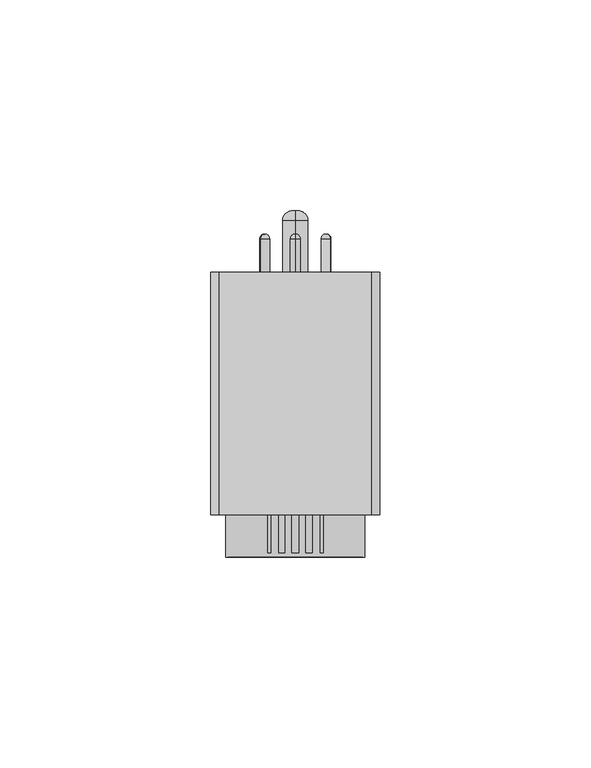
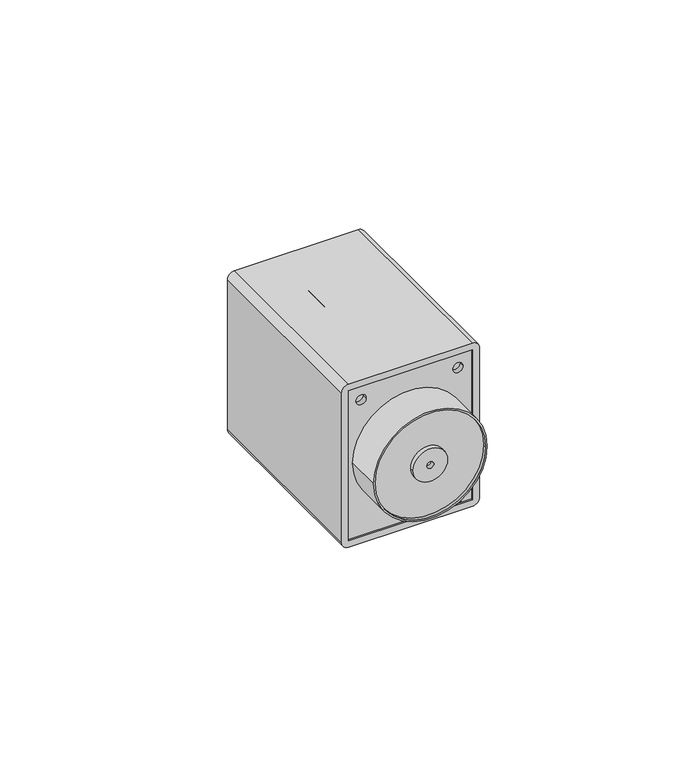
"""IFC4 building model written with IfcOpenShell, lengths in millimetres: proxy geometry, TDM_РЕЛЕ ВРЕМЕНИ ЦОКОЛЬНЫЙ СЕРИИ РВ1-РВ2-РВ3 : РВ1А-2 реж-1сек/10 мин -5 А-220 В-8Ц."""

from ifc_helpers import new_model, si_unit, point, frame, frame_2d, origin, origin_2d, place, context, project, spatial, polyline, circle_curve, ellipse_curve, trimmed, segment, composite_curve, outline, extrude, source, transform, mapped, element, save
from ifc_brep_helpers import plane_surface, cylinder_surface, revolved_surface, advanced_brep


def electrical_equipment_58bb5a1a(model_context):
    return source(origin(), model_context, "Body", "SolidModel", [
        extrude(outline(composite_curve([segment(trimmed(circle_curve(origin_2d(), 5.0), [point((0.0, 5.0))], [point((0.0, -5.0))], False, "CARTESIAN"), True, "CONTINUOUS"), segment(trimmed(circle_curve(origin_2d(), 5.0), [point((0.0, -5.0))], [point((0.0, 5.0))], False, "CARTESIAN"), True, "CONTINUOUS")], self_intersect=False), holes=[composite_curve([segment(trimmed(circle_curve(origin_2d(), 1.0), [point((0.0, 1.0))], [point((0.0, -1.0))], True, "CARTESIAN"), True, "CONTINUOUS"), segment(trimmed(circle_curve(origin_2d(), 1.0), [point((0.0, -1.0))], [point((0.0, 1.0))], True, "CARTESIAN"), True, "CONTINUOUS")], self_intersect=False)]), frame((0.0, -38.5, 0.0), z_axis=(0.0, 1.0, 0.0), x_axis=(0.0, 0.0, 1.0)), (0.0, 0.0, 1.0), 10.0),
        extrude(outline(composite_curve([segment(trimmed(circle_curve(origin_2d(), 16.0), [point((0.0, -16.0))], [point((0.0, 16.0))], False, "CARTESIAN"), True, "CONTINUOUS"), segment(trimmed(circle_curve(origin_2d(), 16.0), [point((0.0, 16.0))], [point((0.0, -16.0))], False, "CARTESIAN"), True, "CONTINUOUS")], self_intersect=False), holes=[composite_curve([segment(trimmed(circle_curve(origin_2d(), 5.0), [point((0.0, -5.0))], [point((0.0, 5.0))], True, "CARTESIAN"), True, "CONTINUOUS"), segment(trimmed(circle_curve(origin_2d(), 5.0), [point((0.0, 5.0))], [point((0.0, -5.0))], True, "CARTESIAN"), True, "CONTINUOUS")], self_intersect=False)]), frame((0.0, -37.5, 0.0), z_axis=(0.0, 1.0, 0.0), x_axis=(0.0, 0.0, 1.0)), (0.0, 0.0, 1.0), 9.5),
        extrude(outline(composite_curve([segment(trimmed(circle_curve(origin_2d(), 1.0), [point((0.0, -1.0))], [point((0.0, 1.0))], False, "CARTESIAN"), True, "CONTINUOUS"), segment(trimmed(circle_curve(origin_2d(), 1.0), [point((0.0, 1.0))], [point((0.0, -1.0))], False, "CARTESIAN"), True, "CONTINUOUS")], self_intersect=False)), frame((0.0, -37.5, 0.0), z_axis=(0.0, 1.0, 0.0), x_axis=(0.0, 0.0, 1.0)), (0.0, 0.0, 1.0), 9.5),
        advanced_brep(
        [(6.2627831, 36.9318195, 3.6158195), (8.2791554, 36.9318195, 4.7799726), (7.2709693, 38.0410993, 4.1978961), (6.2627831, 29.0, 3.6158195), (8.2791554, 29.0, 4.7799726), (7.2709693, 29.0, 4.1978961)],
        [
            (0, 1, circle_curve(frame((7.2709693, 36.9318195, 4.1978961), z_axis=(0.0, 1.0, 0.0), x_axis=(0.8660254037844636, 0.0, 0.49999999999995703)), 1.1641531)),
            (1, 2, circle_curve(frame((7.3173709, 36.9318195, 4.2246861), z_axis=(-0.49999999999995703, 0.0, 0.8660254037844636), x_axis=(0.0, -1.0, 0.0)), 1.1105731)),
            (2, 0, circle_curve(frame((7.2245676, 36.9318195, 4.171106), z_axis=(-0.49999999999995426, 0.0, 0.8660254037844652), x_axis=(0.0, -1.0, 0.0)), 1.1105731)),
            (1, 0, circle_curve(frame((7.2709693, 36.9318195, 4.1978961), z_axis=(0.0, 1.0, 0.0), x_axis=(0.8660254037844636, 0.0, 0.49999999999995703)), 1.1641531)),
            (3, 4, circle_curve(frame((7.2709693, 29.0, 4.1978961), z_axis=(0.0, 1.0, 0.0), x_axis=(0.8660254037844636, 0.0, 0.49999999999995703)), 1.1641531)),
            (4, 1),
            (0, 3),
            (4, 3, circle_curve(frame((7.2709693, 29.0, 4.1978961), z_axis=(0.0, 1.0, 0.0), x_axis=(0.8660254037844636, 0.0, 0.49999999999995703)), 1.1641531)),
            (5, 4),
            (3, 5),
        ],
        [
            revolved_surface(trimmed(ellipse_curve(frame((7.3173709, 36.9318195, 4.2246861), z_axis=(0.49999999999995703, 0.0, -0.8660254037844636), x_axis=(0.0, -1.0, 0.0)), 1.1105731, 1.1105731), [point((7.2709693, 38.0410993, 4.1978961))], [point((8.2791554, 36.9318195, 4.7799726))], True, "CARTESIAN"), (7.2709693, 36.0076957, 4.1978961), (0.0, -1.0, 0.0)),
            cylinder_surface(frame((7.2709693, 36.0076957, 4.1978961), z_axis=(0.0, -1.0, 0.0), x_axis=(0.8660254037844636, 0.0, 0.49999999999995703)), 1.1641531),
            plane_surface(frame((7.2709693, 29.0, 4.1978961), z_axis=(0.0, -1.0000000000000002, 0.0), x_axis=(0.8660254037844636, 0.0, 0.49999999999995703))),
        ],
        [
            (0, [[1, 2, 3]]),
            (0, [[4, -3, -2]]),
            (1, [[5, 6, -1, 7]]),
            (1, [[8, -7, -4, -6]]),
            (2, [[9, -5, 10]]),
            (2, [[-10, -8, -9]]),
        ],
    ),
        advanced_brep(
        [(6.2627831, 36.9318195, -3.6158195), (8.2791554, 36.9318195, -4.7799726), (7.2709693, 38.0410993, -4.1978961), (6.2627831, 29.0, -3.6158195), (8.2791554, 29.0, -4.7799726), (7.2709693, 29.0, -4.1978961)],
        [
            (0, 1, circle_curve(frame((7.2709693, 36.9318195, -4.1978961), z_axis=(0.0, 1.0, 0.0), x_axis=(0.8660254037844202, 0.0, -0.5000000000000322)), 1.1641531)),
            (1, 2, circle_curve(frame((7.3173709, 36.9318195, -4.2246861), z_axis=(0.5000000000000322, 0.0, 0.8660254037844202), x_axis=(0.0, -1.0, 0.0)), 1.1105731)),
            (2, 0, circle_curve(frame((7.2245676, 36.9318195, -4.171106), z_axis=(0.500000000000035, 0.0, 0.8660254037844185), x_axis=(0.0, -1.0, 0.0)), 1.1105731)),
            (1, 0, circle_curve(frame((7.2709693, 36.9318195, -4.1978961), z_axis=(0.0, 1.0, 0.0), x_axis=(0.8660254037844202, 0.0, -0.5000000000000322)), 1.1641531)),
            (3, 4, circle_curve(frame((7.2709693, 29.0, -4.1978961), z_axis=(0.0, 1.0, 0.0), x_axis=(0.8660254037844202, 0.0, -0.5000000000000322)), 1.1641531)),
            (4, 1),
            (0, 3),
            (4, 3, circle_curve(frame((7.2709693, 29.0, -4.1978961), z_axis=(0.0, 1.0, 0.0), x_axis=(0.8660254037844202, 0.0, -0.5000000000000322)), 1.1641531)),
            (5, 4),
            (3, 5),
        ],
        [
            revolved_surface(trimmed(ellipse_curve(frame((7.3173709, 36.9318195, -4.2246861), z_axis=(-0.5000000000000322, 0.0, -0.8660254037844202), x_axis=(0.0, -1.0, 0.0)), 1.1105731, 1.1105731), [point((7.2709693, 38.0410993, -4.1978961))], [point((8.2791554, 36.9318195, -4.7799726))], True, "CARTESIAN"), (7.2709693, 36.0076957, -4.1978961), (0.0, -1.0, 0.0)),
            cylinder_surface(frame((7.2709693, 36.0076957, -4.1978961), z_axis=(0.0, -1.0, 0.0), x_axis=(0.8660254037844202, 0.0, -0.5000000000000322)), 1.1641531),
            plane_surface(frame((7.2709693, 29.0, -4.1978961), z_axis=(0.0, -1.0000000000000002, 0.0), x_axis=(0.8660254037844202, 0.0, -0.5000000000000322))),
        ],
        [
            (0, [[1, 2, 3]]),
            (0, [[4, -3, -2]]),
            (1, [[5, 6, -1, 7]]),
            (1, [[8, -7, -4, -6]]),
            (2, [[9, -5, 10]]),
            (2, [[-10, -8, -9]]),
        ],
    ),
        advanced_brep(
        [(0.0, 36.9318195, -7.231639), (0.0, 36.9318195, -9.5599453), (0.0, 38.0410993, -8.3957921), (0.0, 29.0, -7.231639), (0.0, 29.0, -9.5599453), (0.0, 29.0, -8.3957921)],
        [
            (0, 1, circle_curve(frame((0.0, 36.9318195, -8.3957921), z_axis=(0.0, 1.0, 0.0), x_axis=(0.0, 0.0, -1.0)), 1.1641531)),
            (1, 2, circle_curve(frame((0.0, 36.9318195, -8.4493722), z_axis=(1.0, 0.0, 0.0), x_axis=(0.0, -1.0, 0.0)), 1.1105731)),
            (2, 0, circle_curve(frame((0.0, 36.9318195, -8.3422121), z_axis=(1.0, 0.0, 0.0), x_axis=(0.0, -1.0, 0.0)), 1.1105731)),
            (1, 0, circle_curve(frame((0.0, 36.9318195, -8.3957921), z_axis=(0.0, 1.0, 0.0), x_axis=(0.0, 0.0, -1.0)), 1.1641531)),
            (3, 4, circle_curve(frame((0.0, 29.0, -8.3957921), z_axis=(0.0, 1.0, 0.0), x_axis=(0.0, 0.0, -1.0)), 1.1641531)),
            (4, 1),
            (0, 3),
            (4, 3, circle_curve(frame((0.0, 29.0, -8.3957921), z_axis=(0.0, 1.0, 0.0), x_axis=(0.0, 0.0, -1.0)), 1.1641531)),
            (5, 4),
            (3, 5),
        ],
        [
            revolved_surface(trimmed(ellipse_curve(frame((0.0, 36.9318195, -8.4493722), z_axis=(-1.0, 0.0, 0.0), x_axis=(0.0, -1.0, 0.0)), 1.1105731, 1.1105731), [point((0.0, 38.0410993, -8.3957921))], [point((0.0, 36.9318195, -9.5599453))], True, "CARTESIAN"), (0.0, 36.0076957, -8.3957921), (0.0, -1.0, 0.0)),
            cylinder_surface(frame((0.0, 36.0076957, -8.3957921), z_axis=(0.0, -1.0, 0.0), x_axis=(0.0, 0.0, -1.0)), 1.1641531),
            plane_surface(frame((0.0, 29.0, -8.3957921), z_axis=(0.0, -1.0, 0.0), x_axis=(0.0, 0.0, -1.0))),
        ],
        [
            (0, [[1, 2, 3]]),
            (0, [[4, -3, -2]]),
            (1, [[5, 6, -1, 7]]),
            (1, [[8, -7, -4, -6]]),
            (2, [[9, -5, 10]]),
            (2, [[-10, -8, -9]]),
        ],
    ),
        advanced_brep(
        [(-6.2627831, 36.9318195, -3.6158195), (-8.2791554, 36.9318195, -4.7799726), (-7.2709693, 38.0410993, -4.1978961), (-6.2627831, 29.0, -3.6158195), (-8.2791554, 29.0, -4.7799726), (-7.2709693, 29.0, -4.1978961)],
        [
            (0, 1, circle_curve(frame((-7.2709693, 36.9318195, -4.1978961), z_axis=(0.0, 1.0, 0.0), x_axis=(-0.8660254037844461, 0.0, -0.4999999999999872)), 1.1641531)),
            (1, 2, circle_curve(frame((-7.3173709, 36.9318195, -4.2246861), z_axis=(0.4999999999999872, 0.0, -0.8660254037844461), x_axis=(0.0, -1.0, 0.0)), 1.1105731)),
            (2, 0, circle_curve(frame((-7.2245676, 36.9318195, -4.171106), z_axis=(0.4999999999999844, 0.0, -0.8660254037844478), x_axis=(0.0, -1.0, 0.0)), 1.1105731)),
            (1, 0, circle_curve(frame((-7.2709693, 36.9318195, -4.1978961), z_axis=(0.0, 1.0, 0.0), x_axis=(-0.8660254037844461, 0.0, -0.4999999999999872)), 1.1641531)),
            (3, 4, circle_curve(frame((-7.2709693, 29.0, -4.1978961), z_axis=(0.0, 1.0, 0.0), x_axis=(-0.8660254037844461, 0.0, -0.4999999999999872)), 1.1641531)),
            (4, 1),
            (0, 3),
            (4, 3, circle_curve(frame((-7.2709693, 29.0, -4.1978961), z_axis=(0.0, 1.0, 0.0), x_axis=(-0.8660254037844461, 0.0, -0.4999999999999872)), 1.1641531)),
            (5, 4),
            (3, 5),
        ],
        [
            revolved_surface(trimmed(ellipse_curve(frame((-7.3173709, 36.9318195, -4.2246861), z_axis=(-0.4999999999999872, 0.0, 0.8660254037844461), x_axis=(0.0, -1.0, 0.0)), 1.1105731, 1.1105731), [point((-7.2709693, 38.0410993, -4.1978961))], [point((-8.2791554, 36.9318195, -4.7799726))], True, "CARTESIAN"), (-7.2709693, 36.0076957, -4.1978961), (0.0, -1.0, 0.0)),
            cylinder_surface(frame((-7.2709693, 36.0076957, -4.1978961), z_axis=(0.0, -1.0, 0.0), x_axis=(-0.8660254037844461, 0.0, -0.4999999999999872)), 1.1641531),
            plane_surface(frame((-7.2709693, 29.0, -4.1978961), z_axis=(0.0, -1.0000000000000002, 0.0), x_axis=(-0.8660254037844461, 0.0, -0.4999999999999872))),
        ],
        [
            (0, [[1, 2, 3]]),
            (0, [[4, -3, -2]]),
            (1, [[5, 6, -1, 7]]),
            (1, [[8, -7, -4, -6]]),
            (2, [[9, -5, 10]]),
            (2, [[-10, -8, -9]]),
        ],
    ),
        advanced_brep(
        [(-6.2627831, 36.9318195, 3.6158195), (-8.2791554, 36.9318195, 4.7799726), (-7.2709693, 38.0410993, 4.1978961), (-6.2627831, 29.0, 3.6158195), (-8.2791554, 29.0, 4.7799726), (-7.2709693, 29.0, 4.1978961)],
        [
            (0, 1, circle_curve(frame((-7.2709693, 36.9318195, 4.1978961), z_axis=(0.0, 1.0, 0.0), x_axis=(-0.8660254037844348, 0.0, 0.5000000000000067)), 1.1641531)),
            (1, 2, circle_curve(frame((-7.3173709, 36.9318195, 4.2246861), z_axis=(-0.5000000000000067, 0.0, -0.8660254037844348), x_axis=(0.0, -1.0, 0.0)), 1.1105731)),
            (2, 0, circle_curve(frame((-7.2245676, 36.9318195, 4.171106), z_axis=(-0.5000000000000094, 0.0, -0.8660254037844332), x_axis=(0.0, -1.0, 0.0)), 1.1105731)),
            (1, 0, circle_curve(frame((-7.2709693, 36.9318195, 4.1978961), z_axis=(0.0, 1.0, 0.0), x_axis=(-0.8660254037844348, 0.0, 0.5000000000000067)), 1.1641531)),
            (3, 4, circle_curve(frame((-7.2709693, 29.0, 4.1978961), z_axis=(0.0, 1.0, 0.0), x_axis=(-0.8660254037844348, 0.0, 0.5000000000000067)), 1.1641531)),
            (4, 1),
            (0, 3),
            (4, 3, circle_curve(frame((-7.2709693, 29.0, 4.1978961), z_axis=(0.0, 1.0, 0.0), x_axis=(-0.8660254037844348, 0.0, 0.5000000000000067)), 1.1641531)),
            (5, 4),
            (3, 5),
        ],
        [
            revolved_surface(trimmed(ellipse_curve(frame((-7.3173709, 36.9318195, 4.2246861), z_axis=(0.5000000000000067, 0.0, 0.8660254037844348), x_axis=(0.0, -1.0, 0.0)), 1.1105731, 1.1105731), [point((-7.2709693, 38.0410993, 4.1978961))], [point((-8.2791554, 36.9318195, 4.7799726))], True, "CARTESIAN"), (-7.2709693, 36.0076957, 4.1978961), (0.0, -1.0, 0.0)),
            cylinder_surface(frame((-7.2709693, 36.0076957, 4.1978961), z_axis=(0.0, -1.0, 0.0), x_axis=(-0.8660254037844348, 0.0, 0.5000000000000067)), 1.1641531),
            plane_surface(frame((-7.2709693, 29.0, 4.1978961), z_axis=(0.0, -1.0, 0.0), x_axis=(-0.8660254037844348, 0.0, 0.5000000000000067))),
        ],
        [
            (0, [[1, 2, 3]]),
            (0, [[4, -3, -2]]),
            (1, [[5, 6, -1, 7]]),
            (1, [[8, -7, -4, -6]]),
            (2, [[9, -5, 10]]),
            (2, [[-10, -8, -9]]),
        ],
    ),
        advanced_brep(
        [(0.0, 36.9318195, 7.231639), (0.0, 36.9318195, 9.5599453), (0.0, 38.0410993, 8.3957921), (0.0, 29.0, 7.231639), (0.0, 29.0, 9.5599453), (0.0, 29.0, 8.3957921)],
        [
            (0, 1, circle_curve(frame((0.0, 36.9318195, 8.3957921), z_axis=(0.0, 1.0, 0.0), x_axis=(0.0, 0.0, 1.0)), 1.1641531)),
            (1, 2, circle_curve(frame((0.0, 36.9318195, 8.4493722), z_axis=(-1.0, 0.0, 0.0), x_axis=(0.0, -1.0, 0.0)), 1.1105731)),
            (2, 0, circle_curve(frame((0.0, 36.9318195, 8.3422121), z_axis=(-1.0, 0.0, 0.0), x_axis=(0.0, -1.0, 0.0)), 1.1105731)),
            (1, 0, circle_curve(frame((0.0, 36.9318195, 8.3957921), z_axis=(0.0, 1.0, 0.0), x_axis=(0.0, 0.0, 1.0)), 1.1641531)),
            (3, 4, circle_curve(frame((0.0, 29.0, 8.3957921), z_axis=(0.0, 1.0, 0.0), x_axis=(0.0, 0.0, 1.0)), 1.1641531)),
            (4, 1),
            (0, 3),
            (4, 3, circle_curve(frame((0.0, 29.0, 8.3957921), z_axis=(0.0, 1.0, 0.0), x_axis=(0.0, 0.0, 1.0)), 1.1641531)),
            (5, 4),
            (3, 5),
        ],
        [
            revolved_surface(trimmed(ellipse_curve(frame((0.0, 36.9318195, 8.4493722), z_axis=(1.0, 0.0, 0.0), x_axis=(0.0, -1.0, 0.0)), 1.1105731, 1.1105731), [point((0.0, 38.0410993, 8.3957921))], [point((0.0, 36.9318195, 9.5599453))], True, "CARTESIAN"), (0.0, 36.0076957, 8.3957921), (0.0, -1.0, 0.0)),
            cylinder_surface(frame((0.0, 36.0076957, 8.3957921), z_axis=(0.0, -1.0, 0.0), x_axis=(0.0, 0.0, 1.0)), 1.1641531),
            plane_surface(frame((0.0, 29.0, 8.3957921), z_axis=(0.0, -1.0, 0.0), x_axis=(0.0, 0.0, 1.0))),
        ],
        [
            (0, [[1, 2, 3]]),
            (0, [[4, -3, -2]]),
            (1, [[5, 6, -1, 7]]),
            (1, [[8, -7, -4, -6]]),
            (2, [[9, -5, 10]]),
            (2, [[-10, -8, -9]]),
        ],
    ),
        advanced_brep(
        [(0.0, 43.5, -0.8357285), (0.0, 43.5, 0.8357285), (0.0, 43.5, 0.0), (0.0, 41.3357285, -3.0), (0.0, 41.3357285, 3.0), (0.0, 29.0, -3.0), (0.0, 29.0, 3.0), (0.0, 29.0, 0.0)],
        [
            (0, 1, circle_curve(frame((0.0, 43.5, 0.0), z_axis=(0.0, 1.0, 0.0), x_axis=(0.0, 0.0, 1.0)), 0.8357285)),
            (1, 2),
            (2, 0),
            (1, 0, circle_curve(frame((0.0, 43.5, 0.0), z_axis=(0.0, 1.0, 0.0), x_axis=(0.0, 0.0, 1.0)), 0.8357285)),
            (3, 4, circle_curve(frame((0.0, 41.3357285, 0.0), z_axis=(0.0, 1.0, 0.0), x_axis=(0.0, 0.0, 1.0)), 3.0)),
            (4, 1, circle_curve(frame((0.0, 41.3357285, 0.8357285), z_axis=(-1.0, 0.0, 0.0), x_axis=(0.0, -1.0, 0.0)), 2.1642715)),
            (0, 3, circle_curve(frame((0.0, 41.3357285, -0.8357285), z_axis=(-1.0, 0.0, 0.0), x_axis=(0.0, -1.0, 0.0)), 2.1642715)),
            (4, 3, circle_curve(frame((0.0, 41.3357285, 0.0), z_axis=(0.0, 1.0, 0.0), x_axis=(0.0, 0.0, 1.0)), 3.0)),
            (5, 6, circle_curve(frame((0.0, 29.0, 0.0), z_axis=(0.0, 1.0, 0.0), x_axis=(0.0, 0.0, 1.0)), 3.0)),
            (6, 4),
            (3, 5),
            (6, 5, circle_curve(frame((0.0, 29.0, 0.0), z_axis=(0.0, 1.0, 0.0), x_axis=(0.0, 0.0, 1.0)), 3.0)),
            (7, 6),
            (5, 7),
        ],
        [
            plane_surface(frame((0.0, 43.5, 0.0), z_axis=(0.0, 1.0, 0.0), x_axis=(0.0, 0.0, 1.0))),
            revolved_surface(trimmed(ellipse_curve(frame((0.0, 41.3357285, 0.8357285), z_axis=(1.0, 0.0, 0.0), x_axis=(0.0, -1.0, 0.0)), 2.1642715, 2.1642715), [point((0.0, 43.5, 0.8357285))], [point((0.0, 41.3357285, 3.0))], True, "CARTESIAN"), (0.0, 38.2709729, 0.0), (0.0, -1.0, 0.0)),
            cylinder_surface(frame((0.0, 38.2709729, 0.0), z_axis=(0.0, -1.0, 0.0), x_axis=(0.0, 0.0, 1.0)), 3.0),
            plane_surface(frame((0.0, 29.0, 0.0), z_axis=(0.0, -1.0, 0.0), x_axis=(0.0, 0.0, 1.0))),
        ],
        [
            (0, [[1, 2, 3]]),
            (0, [[4, -3, -2]]),
            (1, [[5, 6, -1, 7]]),
            (1, [[8, -7, -4, -6]]),
            (2, [[9, 10, -5, 11]]),
            (2, [[12, -11, -8, -10]]),
            (3, [[13, -9, 14]]),
            (3, [[-14, -12, -13]]),
        ],
    ),
        extrude(outline(composite_curve([segment(trimmed(circle_curve(origin_2d(), 16.5), [point((0.0, -16.5))], [point((0.0, 16.5))], False, "CARTESIAN"), True, "CONTINUOUS"), segment(trimmed(circle_curve(origin_2d(), 16.5), [point((0.0, 16.5))], [point((0.0, -16.5))], False, "CARTESIAN"), True, "CONTINUOUS")], self_intersect=False), holes=[composite_curve([segment(trimmed(circle_curve(origin_2d(), 16.0), [point((0.0, -16.0))], [point((0.0, 16.0))], True, "CARTESIAN"), True, "CONTINUOUS"), segment(trimmed(circle_curve(origin_2d(), 16.0), [point((0.0, 16.0))], [point((0.0, -16.0))], True, "CARTESIAN"), True, "CONTINUOUS")], self_intersect=False)]), frame((0.0, -38.5, 0.0), z_axis=(0.0, 1.0, 0.0), x_axis=(0.0, 0.0, 1.0)), (0.0, 0.0, 1.0), 10.5),
        extrude(outline(polyline([(23.0, 18.0), (23.0, -18.0), (-23.0, -18.0), (-23.0, 18.0), (23.0, 18.0)]), holes=[composite_curve([segment(trimmed(circle_curve(frame_2d((18.6063827, -14.0765456)), 1.5), [point((18.6063827, -15.5765456))], [point((18.6063827, -12.5765456))], True, "CARTESIAN"), True, "CONTINUOUS"), segment(trimmed(circle_curve(frame_2d((18.6063827, -14.0765456)), 1.5), [point((18.6063827, -12.5765456))], [point((18.6063827, -15.5765456))], True, "CARTESIAN"), True, "CONTINUOUS")], self_intersect=False), composite_curve([segment(trimmed(circle_curve(frame_2d((18.6063827, 14.0765456)), 1.5), [point((18.6063827, 15.5765456))], [point((18.6063827, 12.5765456))], True, "CARTESIAN"), True, "CONTINUOUS"), segment(trimmed(circle_curve(frame_2d((18.6063827, 14.0765456)), 1.5), [point((18.6063827, 12.5765456))], [point((18.6063827, 15.5765456))], True, "CARTESIAN"), True, "CONTINUOUS")], self_intersect=False), polyline([(-18.7354039, 14.0499932), (-21.6201771, 14.0499932), (-21.6201771, 10.764557), (-18.7354039, 10.764557), (-18.7354039, 14.0499932)])]), frame((0.0, -28.0, 0.0), z_axis=(0.0, 1.0, 0.0), x_axis=(0.0, 0.0, 1.0)), (0.0, 0.0, 1.0), 57.0),
        extrude(outline(composite_curve([segment(polyline([(25.0, 18.0), (25.0, -18.0)]), True, "CONTINUOUS"), segment(trimmed(circle_curve(frame_2d((23.0, -18.0)), 2.0), [point((25.0, -18.0))], [point((23.0, -20.0))], False, "CARTESIAN"), True, "CONTINUOUS"), segment(polyline([(23.0, -20.0), (-23.0, -20.0)]), True, "CONTINUOUS"), segment(trimmed(circle_curve(frame_2d((-23.0, -18.0)), 2.0), [point((-23.0, -20.0))], [point((-25.0, -18.0))], False, "CARTESIAN"), True, "CONTINUOUS"), segment(polyline([(-25.0, -18.0), (-25.0, 18.0)]), True, "CONTINUOUS"), segment(trimmed(circle_curve(frame_2d((-23.0, 18.0)), 2.0), [point((-25.0, 18.0))], [point((-23.0, 20.0))], False, "CARTESIAN"), True, "CONTINUOUS"), segment(polyline([(-23.0, 20.0), (23.0, 20.0)]), True, "CONTINUOUS"), segment(trimmed(circle_curve(frame_2d((23.0, 18.0)), 2.0), [point((23.0, 20.0))], [point((25.0, 18.0))], False, "CARTESIAN"), True, "CONTINUOUS")], self_intersect=False), holes=[polyline([(-23.0, 18.0), (-23.0, -18.0), (23.0, -18.0), (23.0, 18.0), (-23.0, 18.0)])]), frame((0.0, -28.5, 0.0), z_axis=(0.0, 1.0, 0.0), x_axis=(0.0, 0.0, 1.0)), (0.0, 0.0, 1.0), 57.5),
        extrude(outline(polyline([(18.0, 28.173155), (18.0, -26.826845), (-18.0, -26.826845), (-18.0, 28.173155), (18.0, 28.173155)])), frame((0.0, 0.0, -22.8185394), z_axis=(0.0, 0.0, 1.0), x_axis=(1.0, 0.0, 0.0)), (0.0, 0.0, 1.0), 45.7754987),
        extrude(outline(polyline([(14.0499932, -21.826845), (14.0499932, -29.5915573), (10.764557, -29.5915573), (10.764557, -21.826845), (14.0499932, -21.826845)])), frame((0.0, 0.0, -21.6201771), z_axis=(0.0, 0.0, 1.0), x_axis=(1.0, 0.0, 0.0)), (0.0, 0.0, 1.0), 2.8847732),
        extrude(outline(composite_curve([segment(trimmed(circle_curve(origin_2d(), 5.0), [point((0.0, 5.0))], [point((0.0, -5.0))], False, "CARTESIAN"), True, "CONTINUOUS"), segment(trimmed(circle_curve(origin_2d(), 5.0), [point((0.0, -5.0))], [point((0.0, 5.0))], False, "CARTESIAN"), True, "CONTINUOUS")], self_intersect=False), holes=[composite_curve([segment(trimmed(circle_curve(origin_2d(), 1.0), [point((0.0, 1.0))], [point((0.0, -1.0))], True, "CARTESIAN"), True, "CONTINUOUS"), segment(trimmed(circle_curve(origin_2d(), 1.0), [point((0.0, -1.0))], [point((0.0, 1.0))], True, "CARTESIAN"), True, "CONTINUOUS")], self_intersect=False)]), frame((0.0, -38.5, 0.0), z_axis=(0.0, 1.0, 0.0), x_axis=(0.0, 0.0, 1.0)), (0.0, 0.0, 1.0), 10.0),
        extrude(outline(composite_curve([segment(trimmed(circle_curve(origin_2d(), 16.0), [point((0.0, -16.0))], [point((0.0, 16.0))], False, "CARTESIAN"), True, "CONTINUOUS"), segment(trimmed(circle_curve(origin_2d(), 16.0), [point((0.0, 16.0))], [point((0.0, -16.0))], False, "CARTESIAN"), True, "CONTINUOUS")], self_intersect=False), holes=[composite_curve([segment(trimmed(circle_curve(origin_2d(), 5.0), [point((0.0, -5.0))], [point((0.0, 5.0))], True, "CARTESIAN"), True, "CONTINUOUS"), segment(trimmed(circle_curve(origin_2d(), 5.0), [point((0.0, 5.0))], [point((0.0, -5.0))], True, "CARTESIAN"), True, "CONTINUOUS")], self_intersect=False)]), frame((0.0, -37.5, 0.0), z_axis=(0.0, 1.0, 0.0), x_axis=(0.0, 0.0, 1.0)), (0.0, 0.0, 1.0), 9.5),
        extrude(outline(composite_curve([segment(trimmed(circle_curve(origin_2d(), 1.0), [point((0.0, -1.0))], [point((0.0, 1.0))], False, "CARTESIAN"), True, "CONTINUOUS"), segment(trimmed(circle_curve(origin_2d(), 1.0), [point((0.0, 1.0))], [point((0.0, -1.0))], False, "CARTESIAN"), True, "CONTINUOUS")], self_intersect=False)), frame((0.0, -37.5, 0.0), z_axis=(0.0, 1.0, 0.0), x_axis=(0.0, 0.0, 1.0)), (0.0, 0.0, 1.0), 9.5),
        advanced_brep(
        [(6.2627831, 36.9318195, 3.6158195), (8.2791554, 36.9318195, 4.7799726), (7.2709693, 38.0410993, 4.1978961), (6.2627831, 29.0, 3.6158195), (8.2791554, 29.0, 4.7799726), (7.2709693, 29.0, 4.1978961)],
        [
            (0, 1, circle_curve(frame((7.2709693, 36.9318195, 4.1978961), z_axis=(0.0, 1.0, 0.0), x_axis=(0.8660254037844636, 0.0, 0.49999999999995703)), 1.1641531)),
            (1, 2, circle_curve(frame((7.3173709, 36.9318195, 4.2246861), z_axis=(-0.49999999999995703, 0.0, 0.8660254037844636), x_axis=(0.0, -1.0, 0.0)), 1.1105731)),
            (2, 0, circle_curve(frame((7.2245676, 36.9318195, 4.171106), z_axis=(-0.49999999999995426, 0.0, 0.8660254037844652), x_axis=(0.0, -1.0, 0.0)), 1.1105731)),
            (1, 0, circle_curve(frame((7.2709693, 36.9318195, 4.1978961), z_axis=(0.0, 1.0, 0.0), x_axis=(0.8660254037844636, 0.0, 0.49999999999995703)), 1.1641531)),
            (3, 4, circle_curve(frame((7.2709693, 29.0, 4.1978961), z_axis=(0.0, 1.0, 0.0), x_axis=(0.8660254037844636, 0.0, 0.49999999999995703)), 1.1641531)),
            (4, 1),
            (0, 3),
            (4, 3, circle_curve(frame((7.2709693, 29.0, 4.1978961), z_axis=(0.0, 1.0, 0.0), x_axis=(0.8660254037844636, 0.0, 0.49999999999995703)), 1.1641531)),
            (5, 4),
            (3, 5),
        ],
        [
            revolved_surface(trimmed(ellipse_curve(frame((7.3173709, 36.9318195, 4.2246861), z_axis=(0.49999999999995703, 0.0, -0.8660254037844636), x_axis=(0.0, -1.0, 0.0)), 1.1105731, 1.1105731), [point((7.2709693, 38.0410993, 4.1978961))], [point((8.2791554, 36.9318195, 4.7799726))], True, "CARTESIAN"), (7.2709693, 36.0076957, 4.1978961), (0.0, -1.0, 0.0)),
            cylinder_surface(frame((7.2709693, 36.0076957, 4.1978961), z_axis=(0.0, -1.0, 0.0), x_axis=(0.8660254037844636, 0.0, 0.49999999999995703)), 1.1641531),
            plane_surface(frame((7.2709693, 29.0, 4.1978961), z_axis=(0.0, -1.0000000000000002, 0.0), x_axis=(0.8660254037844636, 0.0, 0.49999999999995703))),
        ],
        [
            (0, [[1, 2, 3]]),
            (0, [[4, -3, -2]]),
            (1, [[5, 6, -1, 7]]),
            (1, [[8, -7, -4, -6]]),
            (2, [[9, -5, 10]]),
            (2, [[-10, -8, -9]]),
        ],
    ),
        advanced_brep(
        [(6.2627831, 36.9318195, -3.6158195), (8.2791554, 36.9318195, -4.7799726), (7.2709693, 38.0410993, -4.1978961), (6.2627831, 29.0, -3.6158195), (8.2791554, 29.0, -4.7799726), (7.2709693, 29.0, -4.1978961)],
        [
            (0, 1, circle_curve(frame((7.2709693, 36.9318195, -4.1978961), z_axis=(0.0, 1.0, 0.0), x_axis=(0.8660254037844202, 0.0, -0.5000000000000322)), 1.1641531)),
            (1, 2, circle_curve(frame((7.3173709, 36.9318195, -4.2246861), z_axis=(0.5000000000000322, 0.0, 0.8660254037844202), x_axis=(0.0, -1.0, 0.0)), 1.1105731)),
            (2, 0, circle_curve(frame((7.2245676, 36.9318195, -4.171106), z_axis=(0.500000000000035, 0.0, 0.8660254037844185), x_axis=(0.0, -1.0, 0.0)), 1.1105731)),
            (1, 0, circle_curve(frame((7.2709693, 36.9318195, -4.1978961), z_axis=(0.0, 1.0, 0.0), x_axis=(0.8660254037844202, 0.0, -0.5000000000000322)), 1.1641531)),
            (3, 4, circle_curve(frame((7.2709693, 29.0, -4.1978961), z_axis=(0.0, 1.0, 0.0), x_axis=(0.8660254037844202, 0.0, -0.5000000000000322)), 1.1641531)),
            (4, 1),
            (0, 3),
            (4, 3, circle_curve(frame((7.2709693, 29.0, -4.1978961), z_axis=(0.0, 1.0, 0.0), x_axis=(0.8660254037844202, 0.0, -0.5000000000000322)), 1.1641531)),
            (5, 4),
            (3, 5),
        ],
        [
            revolved_surface(trimmed(ellipse_curve(frame((7.3173709, 36.9318195, -4.2246861), z_axis=(-0.5000000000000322, 0.0, -0.8660254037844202), x_axis=(0.0, -1.0, 0.0)), 1.1105731, 1.1105731), [point((7.2709693, 38.0410993, -4.1978961))], [point((8.2791554, 36.9318195, -4.7799726))], True, "CARTESIAN"), (7.2709693, 36.0076957, -4.1978961), (0.0, -1.0, 0.0)),
            cylinder_surface(frame((7.2709693, 36.0076957, -4.1978961), z_axis=(0.0, -1.0, 0.0), x_axis=(0.8660254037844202, 0.0, -0.5000000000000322)), 1.1641531),
            plane_surface(frame((7.2709693, 29.0, -4.1978961), z_axis=(0.0, -1.0000000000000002, 0.0), x_axis=(0.8660254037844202, 0.0, -0.5000000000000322))),
        ],
        [
            (0, [[1, 2, 3]]),
            (0, [[4, -3, -2]]),
            (1, [[5, 6, -1, 7]]),
            (1, [[8, -7, -4, -6]]),
            (2, [[9, -5, 10]]),
            (2, [[-10, -8, -9]]),
        ],
    ),
        advanced_brep(
        [(0.0, 36.9318195, -7.231639), (0.0, 36.9318195, -9.5599453), (0.0, 38.0410993, -8.3957921), (0.0, 29.0, -7.231639), (0.0, 29.0, -9.5599453), (0.0, 29.0, -8.3957921)],
        [
            (0, 1, circle_curve(frame((0.0, 36.9318195, -8.3957921), z_axis=(0.0, 1.0, 0.0), x_axis=(0.0, 0.0, -1.0)), 1.1641531)),
            (1, 2, circle_curve(frame((0.0, 36.9318195, -8.4493722), z_axis=(1.0, 0.0, 0.0), x_axis=(0.0, -1.0, 0.0)), 1.1105731)),
            (2, 0, circle_curve(frame((0.0, 36.9318195, -8.3422121), z_axis=(1.0, 0.0, 0.0), x_axis=(0.0, -1.0, 0.0)), 1.1105731)),
            (1, 0, circle_curve(frame((0.0, 36.9318195, -8.3957921), z_axis=(0.0, 1.0, 0.0), x_axis=(0.0, 0.0, -1.0)), 1.1641531)),
            (3, 4, circle_curve(frame((0.0, 29.0, -8.3957921), z_axis=(0.0, 1.0, 0.0), x_axis=(0.0, 0.0, -1.0)), 1.1641531)),
            (4, 1),
            (0, 3),
            (4, 3, circle_curve(frame((0.0, 29.0, -8.3957921), z_axis=(0.0, 1.0, 0.0), x_axis=(0.0, 0.0, -1.0)), 1.1641531)),
            (5, 4),
            (3, 5),
        ],
        [
            revolved_surface(trimmed(ellipse_curve(frame((0.0, 36.9318195, -8.4493722), z_axis=(-1.0, 0.0, 0.0), x_axis=(0.0, -1.0, 0.0)), 1.1105731, 1.1105731), [point((0.0, 38.0410993, -8.3957921))], [point((0.0, 36.9318195, -9.5599453))], True, "CARTESIAN"), (0.0, 36.0076957, -8.3957921), (0.0, -1.0, 0.0)),
            cylinder_surface(frame((0.0, 36.0076957, -8.3957921), z_axis=(0.0, -1.0, 0.0), x_axis=(0.0, 0.0, -1.0)), 1.1641531),
            plane_surface(frame((0.0, 29.0, -8.3957921), z_axis=(0.0, -1.0, 0.0), x_axis=(0.0, 0.0, -1.0))),
        ],
        [
            (0, [[1, 2, 3]]),
            (0, [[4, -3, -2]]),
            (1, [[5, 6, -1, 7]]),
            (1, [[8, -7, -4, -6]]),
            (2, [[9, -5, 10]]),
            (2, [[-10, -8, -9]]),
        ],
    ),
        advanced_brep(
        [(-6.2627831, 36.9318195, -3.6158195), (-8.2791554, 36.9318195, -4.7799726), (-7.2709693, 38.0410993, -4.1978961), (-6.2627831, 29.0, -3.6158195), (-8.2791554, 29.0, -4.7799726), (-7.2709693, 29.0, -4.1978961)],
        [
            (0, 1, circle_curve(frame((-7.2709693, 36.9318195, -4.1978961), z_axis=(0.0, 1.0, 0.0), x_axis=(-0.8660254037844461, 0.0, -0.4999999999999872)), 1.1641531)),
            (1, 2, circle_curve(frame((-7.3173709, 36.9318195, -4.2246861), z_axis=(0.4999999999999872, 0.0, -0.8660254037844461), x_axis=(0.0, -1.0, 0.0)), 1.1105731)),
            (2, 0, circle_curve(frame((-7.2245676, 36.9318195, -4.171106), z_axis=(0.4999999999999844, 0.0, -0.8660254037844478), x_axis=(0.0, -1.0, 0.0)), 1.1105731)),
            (1, 0, circle_curve(frame((-7.2709693, 36.9318195, -4.1978961), z_axis=(0.0, 1.0, 0.0), x_axis=(-0.8660254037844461, 0.0, -0.4999999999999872)), 1.1641531)),
            (3, 4, circle_curve(frame((-7.2709693, 29.0, -4.1978961), z_axis=(0.0, 1.0, 0.0), x_axis=(-0.8660254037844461, 0.0, -0.4999999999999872)), 1.1641531)),
            (4, 1),
            (0, 3),
            (4, 3, circle_curve(frame((-7.2709693, 29.0, -4.1978961), z_axis=(0.0, 1.0, 0.0), x_axis=(-0.8660254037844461, 0.0, -0.4999999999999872)), 1.1641531)),
            (5, 4),
            (3, 5),
        ],
        [
            revolved_surface(trimmed(ellipse_curve(frame((-7.3173709, 36.9318195, -4.2246861), z_axis=(-0.4999999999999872, 0.0, 0.8660254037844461), x_axis=(0.0, -1.0, 0.0)), 1.1105731, 1.1105731), [point((-7.2709693, 38.0410993, -4.1978961))], [point((-8.2791554, 36.9318195, -4.7799726))], True, "CARTESIAN"), (-7.2709693, 36.0076957, -4.1978961), (0.0, -1.0, 0.0)),
            cylinder_surface(frame((-7.2709693, 36.0076957, -4.1978961), z_axis=(0.0, -1.0, 0.0), x_axis=(-0.8660254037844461, 0.0, -0.4999999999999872)), 1.1641531),
            plane_surface(frame((-7.2709693, 29.0, -4.1978961), z_axis=(0.0, -1.0000000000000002, 0.0), x_axis=(-0.8660254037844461, 0.0, -0.4999999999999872))),
        ],
        [
            (0, [[1, 2, 3]]),
            (0, [[4, -3, -2]]),
            (1, [[5, 6, -1, 7]]),
            (1, [[8, -7, -4, -6]]),
            (2, [[9, -5, 10]]),
            (2, [[-10, -8, -9]]),
        ],
    ),
        advanced_brep(
        [(-6.2627831, 36.9318195, 3.6158195), (-8.2791554, 36.9318195, 4.7799726), (-7.2709693, 38.0410993, 4.1978961), (-6.2627831, 29.0, 3.6158195), (-8.2791554, 29.0, 4.7799726), (-7.2709693, 29.0, 4.1978961)],
        [
            (0, 1, circle_curve(frame((-7.2709693, 36.9318195, 4.1978961), z_axis=(0.0, 1.0, 0.0), x_axis=(-0.8660254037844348, 0.0, 0.5000000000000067)), 1.1641531)),
            (1, 2, circle_curve(frame((-7.3173709, 36.9318195, 4.2246861), z_axis=(-0.5000000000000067, 0.0, -0.8660254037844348), x_axis=(0.0, -1.0, 0.0)), 1.1105731)),
            (2, 0, circle_curve(frame((-7.2245676, 36.9318195, 4.171106), z_axis=(-0.5000000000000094, 0.0, -0.8660254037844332), x_axis=(0.0, -1.0, 0.0)), 1.1105731)),
            (1, 0, circle_curve(frame((-7.2709693, 36.9318195, 4.1978961), z_axis=(0.0, 1.0, 0.0), x_axis=(-0.8660254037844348, 0.0, 0.5000000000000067)), 1.1641531)),
            (3, 4, circle_curve(frame((-7.2709693, 29.0, 4.1978961), z_axis=(0.0, 1.0, 0.0), x_axis=(-0.8660254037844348, 0.0, 0.5000000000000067)), 1.1641531)),
            (4, 1),
            (0, 3),
            (4, 3, circle_curve(frame((-7.2709693, 29.0, 4.1978961), z_axis=(0.0, 1.0, 0.0), x_axis=(-0.8660254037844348, 0.0, 0.5000000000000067)), 1.1641531)),
            (5, 4),
            (3, 5),
        ],
        [
            revolved_surface(trimmed(ellipse_curve(frame((-7.3173709, 36.9318195, 4.2246861), z_axis=(0.5000000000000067, 0.0, 0.8660254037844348), x_axis=(0.0, -1.0, 0.0)), 1.1105731, 1.1105731), [point((-7.2709693, 38.0410993, 4.1978961))], [point((-8.2791554, 36.9318195, 4.7799726))], True, "CARTESIAN"), (-7.2709693, 36.0076957, 4.1978961), (0.0, -1.0, 0.0)),
            cylinder_surface(frame((-7.2709693, 36.0076957, 4.1978961), z_axis=(0.0, -1.0, 0.0), x_axis=(-0.8660254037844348, 0.0, 0.5000000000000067)), 1.1641531),
            plane_surface(frame((-7.2709693, 29.0, 4.1978961), z_axis=(0.0, -1.0, 0.0), x_axis=(-0.8660254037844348, 0.0, 0.5000000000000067))),
        ],
        [
            (0, [[1, 2, 3]]),
            (0, [[4, -3, -2]]),
            (1, [[5, 6, -1, 7]]),
            (1, [[8, -7, -4, -6]]),
            (2, [[9, -5, 10]]),
            (2, [[-10, -8, -9]]),
        ],
    ),
        advanced_brep(
        [(0.0, 36.9318195, 7.231639), (0.0, 36.9318195, 9.5599453), (0.0, 38.0410993, 8.3957921), (0.0, 29.0, 7.231639), (0.0, 29.0, 9.5599453), (0.0, 29.0, 8.3957921)],
        [
            (0, 1, circle_curve(frame((0.0, 36.9318195, 8.3957921), z_axis=(0.0, 1.0, 0.0), x_axis=(0.0, 0.0, 1.0)), 1.1641531)),
            (1, 2, circle_curve(frame((0.0, 36.9318195, 8.4493722), z_axis=(-1.0, 0.0, 0.0), x_axis=(0.0, -1.0, 0.0)), 1.1105731)),
            (2, 0, circle_curve(frame((0.0, 36.9318195, 8.3422121), z_axis=(-1.0, 0.0, 0.0), x_axis=(0.0, -1.0, 0.0)), 1.1105731)),
            (1, 0, circle_curve(frame((0.0, 36.9318195, 8.3957921), z_axis=(0.0, 1.0, 0.0), x_axis=(0.0, 0.0, 1.0)), 1.1641531)),
            (3, 4, circle_curve(frame((0.0, 29.0, 8.3957921), z_axis=(0.0, 1.0, 0.0), x_axis=(0.0, 0.0, 1.0)), 1.1641531)),
            (4, 1),
            (0, 3),
            (4, 3, circle_curve(frame((0.0, 29.0, 8.3957921), z_axis=(0.0, 1.0, 0.0), x_axis=(0.0, 0.0, 1.0)), 1.1641531)),
            (5, 4),
            (3, 5),
        ],
        [
            revolved_surface(trimmed(ellipse_curve(frame((0.0, 36.9318195, 8.4493722), z_axis=(1.0, 0.0, 0.0), x_axis=(0.0, -1.0, 0.0)), 1.1105731, 1.1105731), [point((0.0, 38.0410993, 8.3957921))], [point((0.0, 36.9318195, 9.5599453))], True, "CARTESIAN"), (0.0, 36.0076957, 8.3957921), (0.0, -1.0, 0.0)),
            cylinder_surface(frame((0.0, 36.0076957, 8.3957921), z_axis=(0.0, -1.0, 0.0), x_axis=(0.0, 0.0, 1.0)), 1.1641531),
            plane_surface(frame((0.0, 29.0, 8.3957921), z_axis=(0.0, -1.0, 0.0), x_axis=(0.0, 0.0, 1.0))),
        ],
        [
            (0, [[1, 2, 3]]),
            (0, [[4, -3, -2]]),
            (1, [[5, 6, -1, 7]]),
            (1, [[8, -7, -4, -6]]),
            (2, [[9, -5, 10]]),
            (2, [[-10, -8, -9]]),
        ],
    ),
        advanced_brep(
        [(0.0, 43.5, -0.8357285), (0.0, 43.5, 0.8357285), (0.0, 43.5, 0.0), (0.0, 41.3357285, -3.0), (0.0, 41.3357285, 3.0), (0.0, 29.0, -3.0), (0.0, 29.0, 3.0), (0.0, 29.0, 0.0)],
        [
            (0, 1, circle_curve(frame((0.0, 43.5, 0.0), z_axis=(0.0, 1.0, 0.0), x_axis=(0.0, 0.0, 1.0)), 0.8357285)),
            (1, 2),
            (2, 0),
            (1, 0, circle_curve(frame((0.0, 43.5, 0.0), z_axis=(0.0, 1.0, 0.0), x_axis=(0.0, 0.0, 1.0)), 0.8357285)),
            (3, 4, circle_curve(frame((0.0, 41.3357285, 0.0), z_axis=(0.0, 1.0, 0.0), x_axis=(0.0, 0.0, 1.0)), 3.0)),
            (4, 1, circle_curve(frame((0.0, 41.3357285, 0.8357285), z_axis=(-1.0, 0.0, 0.0), x_axis=(0.0, -1.0, 0.0)), 2.1642715)),
            (0, 3, circle_curve(frame((0.0, 41.3357285, -0.8357285), z_axis=(-1.0, 0.0, 0.0), x_axis=(0.0, -1.0, 0.0)), 2.1642715)),
            (4, 3, circle_curve(frame((0.0, 41.3357285, 0.0), z_axis=(0.0, 1.0, 0.0), x_axis=(0.0, 0.0, 1.0)), 3.0)),
            (5, 6, circle_curve(frame((0.0, 29.0, 0.0), z_axis=(0.0, 1.0, 0.0), x_axis=(0.0, 0.0, 1.0)), 3.0)),
            (6, 4),
            (3, 5),
            (6, 5, circle_curve(frame((0.0, 29.0, 0.0), z_axis=(0.0, 1.0, 0.0), x_axis=(0.0, 0.0, 1.0)), 3.0)),
            (7, 6),
            (5, 7),
        ],
        [
            plane_surface(frame((0.0, 43.5, 0.0), z_axis=(0.0, 1.0, 0.0), x_axis=(0.0, 0.0, 1.0))),
            revolved_surface(trimmed(ellipse_curve(frame((0.0, 41.3357285, 0.8357285), z_axis=(1.0, 0.0, 0.0), x_axis=(0.0, -1.0, 0.0)), 2.1642715, 2.1642715), [point((0.0, 43.5, 0.8357285))], [point((0.0, 41.3357285, 3.0))], True, "CARTESIAN"), (0.0, 38.2709729, 0.0), (0.0, -1.0, 0.0)),
            cylinder_surface(frame((0.0, 38.2709729, 0.0), z_axis=(0.0, -1.0, 0.0), x_axis=(0.0, 0.0, 1.0)), 3.0),
            plane_surface(frame((0.0, 29.0, 0.0), z_axis=(0.0, -1.0, 0.0), x_axis=(0.0, 0.0, 1.0))),
        ],
        [
            (0, [[1, 2, 3]]),
            (0, [[4, -3, -2]]),
            (1, [[5, 6, -1, 7]]),
            (1, [[8, -7, -4, -6]]),
            (2, [[9, 10, -5, 11]]),
            (2, [[12, -11, -8, -10]]),
            (3, [[13, -9, 14]]),
            (3, [[-14, -12, -13]]),
        ],
    ),
        extrude(outline(composite_curve([segment(trimmed(circle_curve(origin_2d(), 16.5), [point((0.0, -16.5))], [point((0.0, 16.5))], False, "CARTESIAN"), True, "CONTINUOUS"), segment(trimmed(circle_curve(origin_2d(), 16.5), [point((0.0, 16.5))], [point((0.0, -16.5))], False, "CARTESIAN"), True, "CONTINUOUS")], self_intersect=False), holes=[composite_curve([segment(trimmed(circle_curve(origin_2d(), 16.0), [point((0.0, -16.0))], [point((0.0, 16.0))], True, "CARTESIAN"), True, "CONTINUOUS"), segment(trimmed(circle_curve(origin_2d(), 16.0), [point((0.0, 16.0))], [point((0.0, -16.0))], True, "CARTESIAN"), True, "CONTINUOUS")], self_intersect=False)]), frame((0.0, -38.5, 0.0), z_axis=(0.0, 1.0, 0.0), x_axis=(0.0, 0.0, 1.0)), (0.0, 0.0, 1.0), 10.5),
        extrude(outline(polyline([(23.0, 18.0), (23.0, -18.0), (-23.0, -18.0), (-23.0, 18.0), (23.0, 18.0)]), holes=[composite_curve([segment(trimmed(circle_curve(frame_2d((18.6063827, -14.0765456)), 1.5), [point((18.6063827, -15.5765456))], [point((18.6063827, -12.5765456))], True, "CARTESIAN"), True, "CONTINUOUS"), segment(trimmed(circle_curve(frame_2d((18.6063827, -14.0765456)), 1.5), [point((18.6063827, -12.5765456))], [point((18.6063827, -15.5765456))], True, "CARTESIAN"), True, "CONTINUOUS")], self_intersect=False), composite_curve([segment(trimmed(circle_curve(frame_2d((18.6063827, 14.0765456)), 1.5), [point((18.6063827, 15.5765456))], [point((18.6063827, 12.5765456))], True, "CARTESIAN"), True, "CONTINUOUS"), segment(trimmed(circle_curve(frame_2d((18.6063827, 14.0765456)), 1.5), [point((18.6063827, 12.5765456))], [point((18.6063827, 15.5765456))], True, "CARTESIAN"), True, "CONTINUOUS")], self_intersect=False), polyline([(-18.7354039, 14.0499932), (-21.6201771, 14.0499932), (-21.6201771, 10.764557), (-18.7354039, 10.764557), (-18.7354039, 14.0499932)])]), frame((0.0, -28.0, 0.0), z_axis=(0.0, 1.0, 0.0), x_axis=(0.0, 0.0, 1.0)), (0.0, 0.0, 1.0), 57.0),
        extrude(outline(composite_curve([segment(polyline([(25.0, 18.0), (25.0, -18.0)]), True, "CONTINUOUS"), segment(trimmed(circle_curve(frame_2d((23.0, -18.0)), 2.0), [point((25.0, -18.0))], [point((23.0, -20.0))], False, "CARTESIAN"), True, "CONTINUOUS"), segment(polyline([(23.0, -20.0), (-23.0, -20.0)]), True, "CONTINUOUS"), segment(trimmed(circle_curve(frame_2d((-23.0, -18.0)), 2.0), [point((-23.0, -20.0))], [point((-25.0, -18.0))], False, "CARTESIAN"), True, "CONTINUOUS"), segment(polyline([(-25.0, -18.0), (-25.0, 18.0)]), True, "CONTINUOUS"), segment(trimmed(circle_curve(frame_2d((-23.0, 18.0)), 2.0), [point((-25.0, 18.0))], [point((-23.0, 20.0))], False, "CARTESIAN"), True, "CONTINUOUS"), segment(polyline([(-23.0, 20.0), (23.0, 20.0)]), True, "CONTINUOUS"), segment(trimmed(circle_curve(frame_2d((23.0, 18.0)), 2.0), [point((23.0, 20.0))], [point((25.0, 18.0))], False, "CARTESIAN"), True, "CONTINUOUS")], self_intersect=False), holes=[polyline([(-23.0, 18.0), (-23.0, -18.0), (23.0, -18.0), (23.0, 18.0), (-23.0, 18.0)])]), frame((0.0, -28.5, 0.0), z_axis=(0.0, 1.0, 0.0), x_axis=(0.0, 0.0, 1.0)), (0.0, 0.0, 1.0), 57.5),
    ])


if __name__ == "__main__":
    model = new_model("IFC4")
    model_context = context("Model", 3, world=origin())
    ifc_project = project(units=[si_unit("LENGTHUNIT", "METRE", prefix="MILLI")], contexts=[model_context])
    site = spatial("IfcSite", under=ifc_project)
    building = spatial("IfcBuilding", under=site)
    placement = place(None, origin())
    electrical_equipment_shape = electrical_equipment_58bb5a1a(model_context)
    element("IfcBuildingElementProxy", 1, Name="TDM_РЕЛЕ ВРЕМЕНИ ЦОКОЛЬНЫЙ СЕРИИ РВ1-РВ2-РВ3 : РВ1А-2 реж-1сек/10 мин -5 А-220 В-8Ц", ObjectType="TDM_РЕЛЕ ВРЕМЕНИ ЦОКОЛЬНЫЙ СЕРИИ РВ1-РВ2-РВ3 : РВ1А-2 реж-1сек/10 мин -5 А-220 В-8Ц", at=placement, inside=building, context=model_context, shape_type="MappedRepresentation", body=[
        mapped(electrical_equipment_shape, transform((0.0, 0.0, 0.0), x_axis=(1.0, 0.0, 0.0), y_axis=(0.0, 1.0, 0.0), z_axis=(0.0, 0.0, 1.0))),
    ])
    save(model, "model.ifc")
